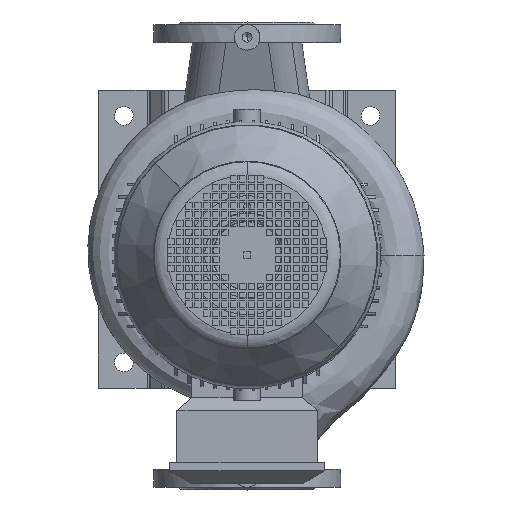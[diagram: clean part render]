
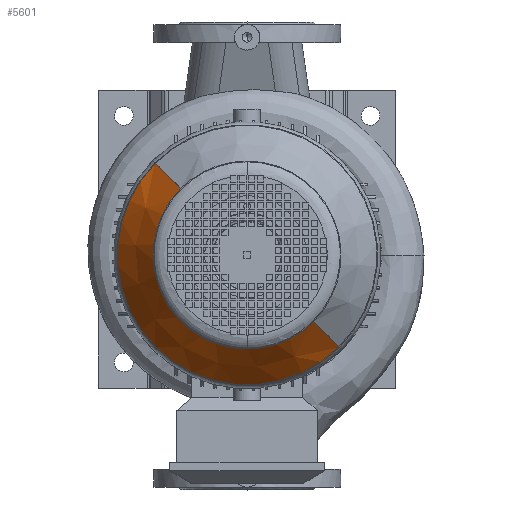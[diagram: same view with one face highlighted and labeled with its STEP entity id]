
A CAD part, top view. The second image highlights one B-rep face of the part: STEP entity #5601.
In plain terms, the highlighted conical face has half-angle 34.992 degrees and reference radius 104.5 mm.
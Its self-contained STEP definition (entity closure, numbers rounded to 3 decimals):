
#5601=ADVANCED_FACE('',(#12207),#12208,.T.);
#12207=FACE_OUTER_BOUND('',#22563,.T.);
#12208=CONICAL_SURFACE('',#22564,104.5,0.611);
#22563=EDGE_LOOP('',(#37429,#37430,#37431,#37432,#37433));
#22564=AXIS2_PLACEMENT_3D('',#37434,#37435,#37436);
#37429=ORIENTED_EDGE('',*,*,#44355,.T.);
#37430=ORIENTED_EDGE('',*,*,#47763,.F.);
#37431=ORIENTED_EDGE('',*,*,#44465,.F.);
#37432=ORIENTED_EDGE('',*,*,#44357,.T.);
#37433=ORIENTED_EDGE('',*,*,#47797,.F.);
#37434=CARTESIAN_POINT('',(0.,0.,163.0));
#37435=DIRECTION('',(-0.0,-0.0,-1.0));
#37436=DIRECTION('',(-1.0,0.,0.0));
#44355=EDGE_CURVE('',#51050,#51051,#51052,.T.);
#44357=EDGE_CURVE('',#51055,#51053,#51056,.T.);
#44465=EDGE_CURVE('',#51055,#51198,#51247,.T.);
#47763=EDGE_CURVE('',#51198,#51051,#56189,.T.);
#47797=EDGE_CURVE('',#51050,#51053,#56225,.T.);
#51050=VERTEX_POINT('',#62824);
#51051=VERTEX_POINT('',#62825);
#51052=LINE('',#62826,#62827);
#51053=VERTEX_POINT('',#62828);
#51055=VERTEX_POINT('',#62830);
#51056=LINE('',#62831,#62832);
#51198=VERTEX_POINT('',#63358);
#51247=CIRCLE('',#63507,110.472);
#56189=CIRCLE('',#71101,110.472);
#56225=CIRCLE('',#71197,153.385);
#62824=CARTESIAN_POINT('',(-153.385,0.,93.165));
#62825=CARTESIAN_POINT('',(-110.472,0.,154.469));
#62826=CARTESIAN_POINT('',(-104.5,0.,163.0));
#62827=VECTOR('',#80317,1.0);
#62828=CARTESIAN_POINT('',(153.385,0.0,93.165));
#62830=CARTESIAN_POINT('',(110.472,0.,154.469));
#62831=CARTESIAN_POINT('',(104.5,0.,163.0));
#62832=VECTOR('',#80321,1.0);
#63358=CARTESIAN_POINT('',(-78.115,78.115,154.469));
#63507=AXIS2_PLACEMENT_3D('',#80416,#80417,#80418);
#71101=AXIS2_PLACEMENT_3D('',#82863,#82864,#82865);
#71197=AXIS2_PLACEMENT_3D('',#82911,#82912,#82913);
#80317=DIRECTION('',(0.573,0.,0.819));
#80321=DIRECTION('',(0.573,0.,-0.819));
#80416=CARTESIAN_POINT('',(0.,0.,154.469));
#80417=DIRECTION('',(0.0,0.0,1.0));
#80418=DIRECTION('',(-1.0,0.,0.0));
#82863=CARTESIAN_POINT('',(0.,0.,154.469));
#82864=DIRECTION('',(0.0,0.0,1.0));
#82865=DIRECTION('',(-1.0,0.,0.0));
#82911=CARTESIAN_POINT('',(0.,0.,93.165));
#82912=DIRECTION('',(0.0,-0.0,-1.0));
#82913=DIRECTION('',(-1.0,0.,0.0));
